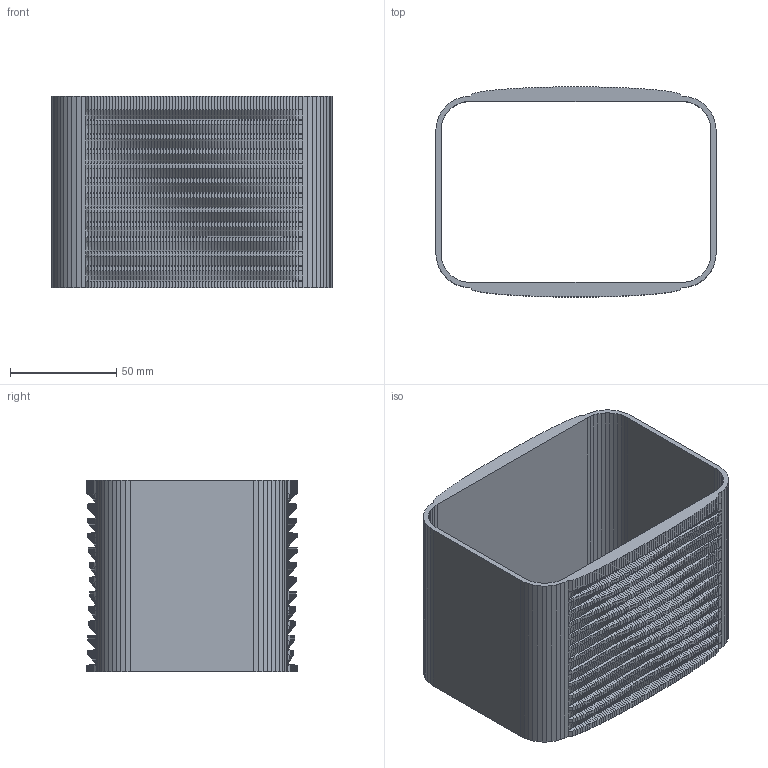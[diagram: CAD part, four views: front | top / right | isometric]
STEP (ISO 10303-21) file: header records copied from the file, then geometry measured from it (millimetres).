
FILE_DESCRIPTION(('Open CASCADE Model'),'2;1');
FILE_NAME('Open CASCADE Shape Model','2026-10-16T13:32:05',('Author'),( 'Open CASCADE'),'Open CASCADE STEP processor 7.9','Open CASCADE 7.9' ,'Unknown');
FILE_SCHEMA(('AUTOMOTIVE_DESIGN { 1 0 10303 214 1 1 1 1 }'));
Products named in the file (1): Open CASCADE STEP translator 7.9 9
Bounding box: 132 x 99 x 90 mm (x, y, z)
Volume: 118473.2 mm3; surface area: 83514.3 mm2
Topology: 1 solids, 1 shells, 5422 faces, 11148 edges, 5728 vertices
Faces by surface type: bspline 3452, plane 1970
Entity records: 265012 total; most frequent: CARTESIAN_POINT 67753, DIRECTION 24584, ORIENTED_EDGE 22296, PCURVE 22296, DEFINITIONAL_REPRESENTATION 22296, LINE 20642, VECTOR 20642, B_SPLINE_CURVE_WITH_KNOTS 12802
